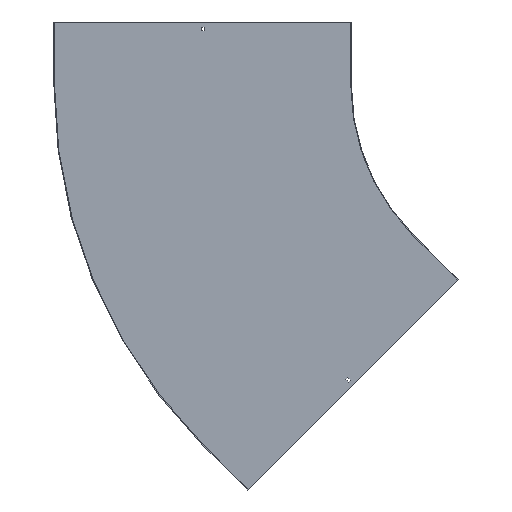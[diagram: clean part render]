
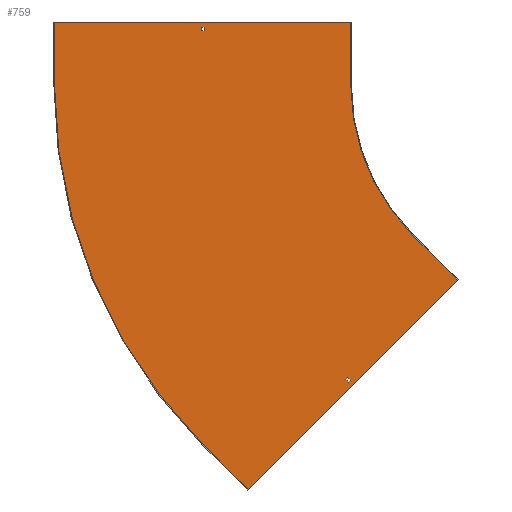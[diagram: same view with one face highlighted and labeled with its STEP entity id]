
A CAD part, front view. The second image highlights one B-rep face of the part: STEP entity #759.
In plain terms, the highlighted planar face has unit normal (0, -1, 0).
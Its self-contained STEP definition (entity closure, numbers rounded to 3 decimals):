
#1 = EDGE_CURVE ( 'NONE', #44, #121, #158, .T. ) ;
#2 = CARTESIAN_POINT ( 'NONE',  ( -1200., -1.5, 150. ) ) ;
#14 = VERTEX_POINT ( 'NONE', #412 ) ;
#16 = CARTESIAN_POINT ( 'NONE',  ( -1201.5, -1.5, 150. ) ) ;
#26 = LINE ( 'NONE', #358, #366 ) ;
#35 = CARTESIAN_POINT ( 'NONE',  ( -1200., -1.5, 0. ) ) ;
#38 = CARTESIAN_POINT ( 'NONE',  ( -846.75, -1.5, 0. ) ) ;
#39 = ORIENTED_EDGE ( 'NONE', *, *, #579, .F. ) ;
#43 = CARTESIAN_POINT ( 'NONE',  ( -853.25, -1.5, 129. ) ) ;
#44 = VERTEX_POINT ( 'NONE', #538 ) ;
#50 = DIRECTION ( 'NONE',  ( 0.707, 0., 0.707 ) ) ;
#73 = CARTESIAN_POINT ( 'NONE',  ( -848.528, -1.5, -848.528 ) ) ;
#74 = VERTEX_POINT ( 'NONE', #218 ) ;
#75 = DIRECTION ( 'NONE',  ( 0., -1., 0. ) ) ;
#95 = EDGE_CURVE ( 'NONE', #393, #585, #847, .T. ) ;
#96 = DIRECTION ( 'NONE',  ( 0., 0., 1. ) ) ;
#104 = EDGE_CURVE ( 'NONE', #585, #518, #386, .T. ) ;
#112 = LINE ( 'NONE', #640, #434 ) ;
#121 = VERTEX_POINT ( 'NONE', #861 ) ;
#125 = DIRECTION ( 'NONE',  ( 1., 0., 0. ) ) ;
#134 = EDGE_CURVE ( 'NONE', #649, #716, #207, .T. ) ;
#136 = VECTOR ( 'NONE', #440, 1000. ) ;
#142 = DIRECTION ( 'NONE',  ( 0., 0., -1. ) ) ;
#154 = EDGE_LOOP ( 'NONE', ( #192, #850, #779, #352, #39, #188, #170, #510 ) ) ;
#155 = VECTOR ( 'NONE', #277, 1000. ) ;
#158 = LINE ( 'NONE', #346, #732 ) ;
#166 = EDGE_CURVE ( 'NONE', #422, #559, #112, .T. ) ;
#170 = ORIENTED_EDGE ( 'NONE', *, *, #95, .F. ) ;
#175 = VECTOR ( 'NONE', #334, 1000. ) ;
#188 = ORIENTED_EDGE ( 'NONE', *, *, #104, .F. ) ;
#191 = AXIS2_PLACEMENT_3D ( 'NONE', #351, #532, #142 ) ;
#192 = ORIENTED_EDGE ( 'NONE', *, *, #445, .F. ) ;
#193 = EDGE_LOOP ( 'NONE', ( #486, #603, #831, #621 ) ) ;
#201 = FACE_OUTER_BOUND ( 'NONE', #154, .T. ) ;
#207 = CIRCLE ( 'NONE', #719, 1200. ) ;
#208 = LINE ( 'NONE', #520, #772 ) ;
#216 = PLANE ( 'NONE',  #191 ) ;
#218 = CARTESIAN_POINT ( 'NONE',  ( -742.462, -1.5, -954.594 ) ) ;
#219 = CARTESIAN_POINT ( 'NONE',  ( -507.526, -1.5, -689.959 ) ) ;
#269 = FACE_BOUND ( 'NONE', #193, .T. ) ;
#277 = DIRECTION ( 'NONE',  ( 1., 0., 0. ) ) ;
#292 = CARTESIAN_POINT ( 'NONE',  ( -247.487, -1.5, -459.619 ) ) ;
#308 = CARTESIAN_POINT ( 'NONE',  ( 91.217, -1.5, -91.217 ) ) ;
#309 = DIRECTION ( 'NONE',  ( -0.707, 0., 0.707 ) ) ;
#310 = EDGE_CURVE ( 'NONE', #320, #576, #814, .T. ) ;
#320 = VERTEX_POINT ( 'NONE', #396 ) ;
#334 = DIRECTION ( 'NONE',  ( -1., 0., 0. ) ) ;
#346 = CARTESIAN_POINT ( 'NONE',  ( 0., -1.5, 138. ) ) ;
#347 = CARTESIAN_POINT ( 'NONE',  ( -500., -1.5, 0. ) ) ;
#351 = CARTESIAN_POINT ( 'NONE',  ( 0., -1.5, 0. ) ) ;
#352 = ORIENTED_EDGE ( 'NONE', *, *, #855, .F. ) ;
#358 = CARTESIAN_POINT ( 'NONE',  ( -1200., -1.5, 0. ) ) ;
#366 = VECTOR ( 'NONE', #549, 1000. ) ;
#375 = DIRECTION ( 'NONE',  ( 0., 0., -1. ) ) ;
#378 = DIRECTION ( 'NONE',  ( 0., 0., -1. ) ) ;
#386 = LINE ( 'NONE', #525, #524 ) ;
#393 = VERTEX_POINT ( 'NONE', #347 ) ;
#396 = CARTESIAN_POINT ( 'NONE',  ( -846.75, -1.5, 129. ) ) ;
#399 = VECTOR ( 'NONE', #309, 1000. ) ;
#400 = VECTOR ( 'NONE', #479, 1000. ) ;
#407 = VECTOR ( 'NONE', #552, 1000. ) ;
#409 = EDGE_CURVE ( 'NONE', #576, #44, #690, .T. ) ;
#412 = CARTESIAN_POINT ( 'NONE',  ( -512.122, -1.5, -694.556 ) ) ;
#414 = EDGE_CURVE ( 'NONE', #716, #656, #26, .T. ) ;
#422 = VERTEX_POINT ( 'NONE', #607 ) ;
#430 = EDGE_CURVE ( 'NONE', #566, #393, #558, .T. ) ;
#434 = VECTOR ( 'NONE', #50, 1000. ) ;
#440 = DIRECTION ( 'NONE',  ( -0.707, 0., -0.707 ) ) ;
#445 = EDGE_CURVE ( 'NONE', #656, #566, #739, .T. ) ;
#452 = CARTESIAN_POINT ( 'NONE',  ( 0., -1.5, 0. ) ) ;
#458 = AXIS2_PLACEMENT_3D ( 'NONE', #487, #75, #481 ) ;
#475 = VECTOR ( 'NONE', #710, 1000. ) ;
#476 = DIRECTION ( 'NONE',  ( -0.707, 0., 0.707 ) ) ;
#479 = DIRECTION ( 'NONE',  ( 0., 0., -1. ) ) ;
#481 = DIRECTION ( 'NONE',  ( 0., 0., -1. ) ) ;
#486 = ORIENTED_EDGE ( 'NONE', *, *, #1, .T. ) ;
#487 = CARTESIAN_POINT ( 'NONE',  ( 0., -1.5, 0. ) ) ;
#488 = CARTESIAN_POINT ( 'NONE',  ( 0., -1.5, 129. ) ) ;
#495 = VECTOR ( 'NONE', #96, 1000. ) ;
#497 = CARTESIAN_POINT ( 'NONE',  ( -500., -1.5, 150. ) ) ;
#507 = CARTESIAN_POINT ( 'NONE',  ( -246.427, -1.5, -458.559 ) ) ;
#510 = ORIENTED_EDGE ( 'NONE', *, *, #430, .F. ) ;
#512 = CARTESIAN_POINT ( 'NONE',  ( -742.462, -1.5, -954.594 ) ) ;
#518 = VERTEX_POINT ( 'NONE', #292 ) ;
#520 = CARTESIAN_POINT ( 'NONE',  ( -598.743, -1.5, -598.743 ) ) ;
#522 = ORIENTED_EDGE ( 'NONE', *, *, #657, .F. ) ;
#524 = VECTOR ( 'NONE', #796, 1000. ) ;
#525 = CARTESIAN_POINT ( 'NONE',  ( -353.553, -1.5, -353.553 ) ) ;
#532 = DIRECTION ( 'NONE',  ( 0., -1., 0. ) ) ;
#538 = CARTESIAN_POINT ( 'NONE',  ( -853.25, -1.5, 138. ) ) ;
#549 = DIRECTION ( 'NONE',  ( 0., 0., 1. ) ) ;
#552 = DIRECTION ( 'NONE',  ( 0.707, 0., -0.707 ) ) ;
#558 = LINE ( 'NONE', #818, #400 ) ;
#559 = VERTEX_POINT ( 'NONE', #743 ) ;
#564 = EDGE_CURVE ( 'NONE', #121, #320, #635, .T. ) ;
#566 = VERTEX_POINT ( 'NONE', #497 ) ;
#567 = LINE ( 'NONE', #507, #136 ) ;
#576 = VERTEX_POINT ( 'NONE', #43 ) ;
#579 = EDGE_CURVE ( 'NONE', #518, #74, #567, .T. ) ;
#583 = EDGE_CURVE ( 'NONE', #830, #14, #703, .T. ) ;
#585 = VERTEX_POINT ( 'NONE', #714 ) ;
#603 = ORIENTED_EDGE ( 'NONE', *, *, #564, .T. ) ;
#606 = LINE ( 'NONE', #834, #407 ) ;
#607 = CARTESIAN_POINT ( 'NONE',  ( -505.758, -1.5, -700.92 ) ) ;
#621 = ORIENTED_EDGE ( 'NONE', *, *, #409, .T. ) ;
#623 = CARTESIAN_POINT ( 'NONE',  ( -853.25, -1.5, 0. ) ) ;
#634 = EDGE_LOOP ( 'NONE', ( #522, #675, #660, #798 ) ) ;
#635 = LINE ( 'NONE', #38, #709 ) ;
#640 = CARTESIAN_POINT ( 'NONE',  ( 97.581, -1.5, -97.581 ) ) ;
#649 = VERTEX_POINT ( 'NONE', #73 ) ;
#656 = VERTEX_POINT ( 'NONE', #2 ) ;
#657 = EDGE_CURVE ( 'NONE', #559, #830, #208, .T. ) ;
#660 = ORIENTED_EDGE ( 'NONE', *, *, #778, .F. ) ;
#675 = ORIENTED_EDGE ( 'NONE', *, *, #166, .F. ) ;
#690 = LINE ( 'NONE', #623, #495 ) ;
#703 = LINE ( 'NONE', #308, #475 ) ;
#709 = VECTOR ( 'NONE', #375, 1000. ) ;
#710 = DIRECTION ( 'NONE',  ( -0.707, 0., -0.707 ) ) ;
#714 = CARTESIAN_POINT ( 'NONE',  ( -353.553, -1.5, -353.553 ) ) ;
#716 = VERTEX_POINT ( 'NONE', #35 ) ;
#719 = AXIS2_PLACEMENT_3D ( 'NONE', #452, #775, #378 ) ;
#732 = VECTOR ( 'NONE', #125, 1000. ) ;
#739 = LINE ( 'NONE', #16, #155 ) ;
#743 = CARTESIAN_POINT ( 'NONE',  ( -501.162, -1.5, -696.323 ) ) ;
#759 = ADVANCED_FACE ( 'NONE', ( #816, #201, #269 ), #216, .T. ) ;
#772 = VECTOR ( 'NONE', #476, 1000. ) ;
#775 = DIRECTION ( 'NONE',  ( 0., 1., 0. ) ) ;
#778 = EDGE_CURVE ( 'NONE', #14, #422, #606, .T. ) ;
#779 = ORIENTED_EDGE ( 'NONE', *, *, #134, .F. ) ;
#782 = LINE ( 'NONE', #512, #399 ) ;
#796 = DIRECTION ( 'NONE',  ( 0.707, 0., -0.707 ) ) ;
#798 = ORIENTED_EDGE ( 'NONE', *, *, #583, .F. ) ;
#814 = LINE ( 'NONE', #488, #175 ) ;
#816 = FACE_BOUND ( 'NONE', #634, .T. ) ;
#818 = CARTESIAN_POINT ( 'NONE',  ( -500., -1.5, 150. ) ) ;
#830 = VERTEX_POINT ( 'NONE', #219 ) ;
#831 = ORIENTED_EDGE ( 'NONE', *, *, #310, .T. ) ;
#834 = CARTESIAN_POINT ( 'NONE',  ( -603.339, -1.5, -603.339 ) ) ;
#847 = CIRCLE ( 'NONE', #458, 500. ) ;
#850 = ORIENTED_EDGE ( 'NONE', *, *, #414, .F. ) ;
#855 = EDGE_CURVE ( 'NONE', #74, #649, #782, .T. ) ;
#861 = CARTESIAN_POINT ( 'NONE',  ( -846.75, -1.5, 138. ) ) ;
